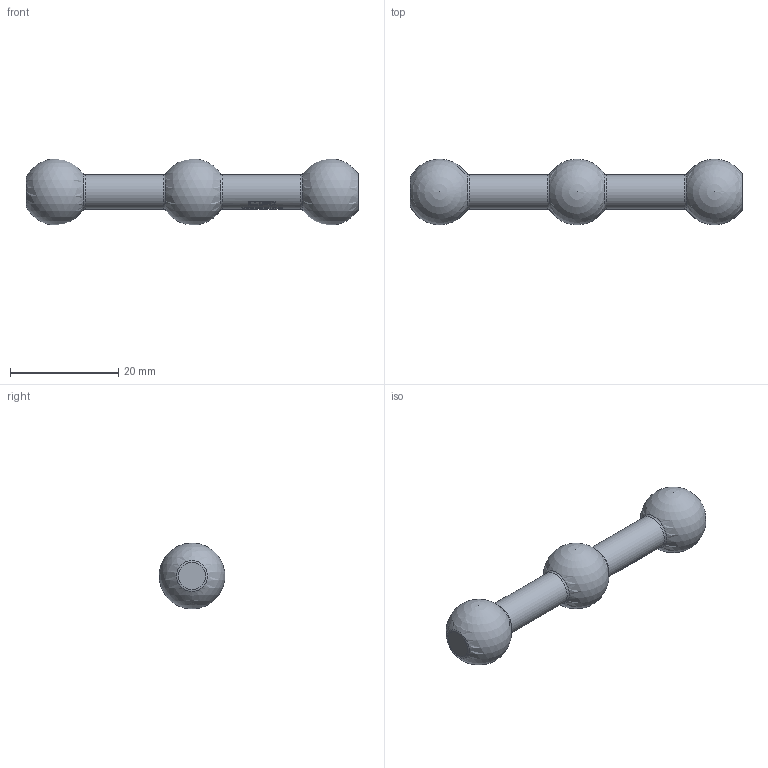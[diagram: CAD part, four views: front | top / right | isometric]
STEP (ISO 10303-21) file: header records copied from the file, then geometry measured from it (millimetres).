
FILE_DESCRIPTION(/* description */ ('JRPL 2IN HYPERLINK'),/* implementation_level */ '2;1');
FILE_NAME(/* name */ 'C:\Users\Shayne Riley\Documents\Vault\AD&D\Design Files\Pop-Link\JRPL Series Assemblies\JRPL-HLINK2IN.stp',/* time_stamp */ '2020-11-18T09:43:20-05:00',/* author */ ('Shayne Riley'),/* organization */ (''),/* preprocessor_version */ 'ST-DEVELOPER v18.1',/* originating_system */ 'Autodesk Inventor 2021',/* authorisation */ '');
FILE_SCHEMA (('AUTOMOTIVE_DESIGN { 1 0 10303 214 3 1 1 }'));
Length unit declared in the file: inch
Products named in the file (4): JRPL-HLINK2IN; 60267; 60266-JRPL-HYPERLINK POST; 60266-JRPL-HYPERLINK POST-ETCHED
Assembly tree (3 placements, depth 2):
  JRPL-HLINK2IN
    60267
    60266-JRPL-HYPERLINK POST
    60266-JRPL-HYPERLINK POST-ETCHED
Bounding box: 61.31 x 12.1 x 12.19 mm (x, y, z)
Volume: 3478.3 mm3; surface area: 2474.2 mm2
Topology: 3 solids, 3 shells, 730 faces, 1963 edges, 1307 vertices
Faces by surface type: plane 463, bspline 169, cylinder 76, torus 11, cone 8, sphere 3
Full cylindrical faces by diameter (mm): 4.724 x2, 4.762 x3, 4.788 x2, 6.306 x2
Entity records: 26261 total; most frequent: CARTESIAN_POINT 8411, ORIENTED_EDGE 3908, DIRECTION 3277, EDGE_CURVE 1954, VERTEX_POINT 1307, AXIS2_PLACEMENT_3D 1093, LINE 1091, VECTOR 1091
